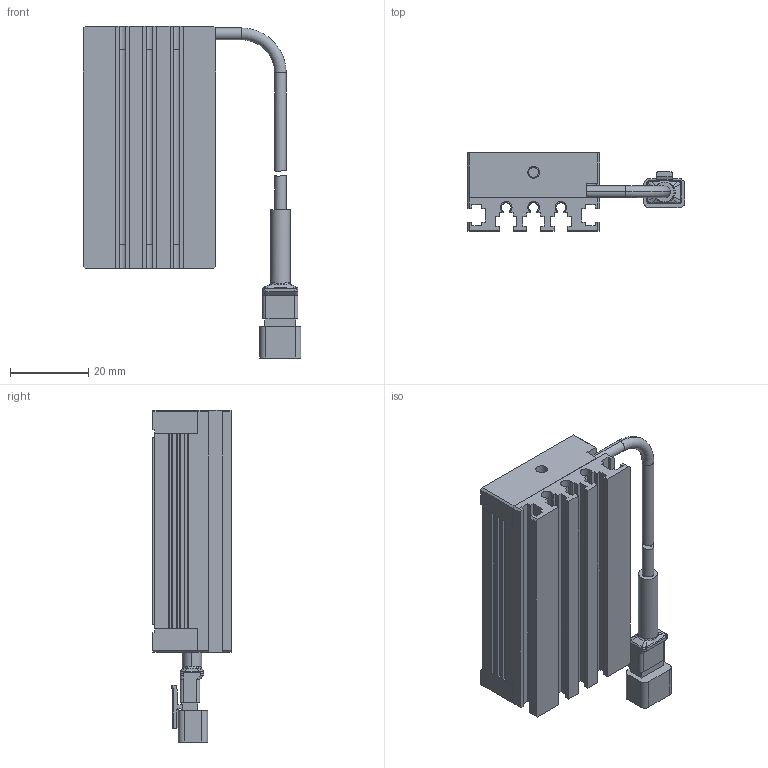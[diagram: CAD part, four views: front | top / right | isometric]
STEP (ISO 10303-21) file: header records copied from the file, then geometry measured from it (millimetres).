
FILE_DESCRIPTION (( 'STEP AP203' ), '1' );
FILE_NAME ('26x30_LDL2-50X30GR2.STEP', '2024-09-30T06:20:44', ( 'CCS' ), ( 'シーシーエス株式会社' ), 'SwSTEP 2.0', 'SolidWorks 2022', '' );
FILE_SCHEMA (( 'CONFIG_CONTROL_DESIGN' ));
Length unit declared in the file: millimetre
Products named in the file (7): ブロック30A_LDL2-50X30GR2; レンズ30_LDL2-50X30GR2; ブロック30B_LDL2-50X30GR2; 26x30_LDL2-50X30GR2; BSCA002-N007_M2x12_CAP(三価ｸﾛﾑ黒色); SMケーブル_パターン2; フレーム30_LDL2-50X30GR2
Assembly tree (9 placements, depth 2):
  26x30_LDL2-50X30GR2
    フレーム30_LDL2-50X30GR2
    レンズ30_LDL2-50X30GR2
    ブロック30B_LDL2-50X30GR2
    ブロック30A_LDL2-50X30GR2
    BSCA002-N007_M2x12_CAP(三価ｸﾛﾑ黒色)  x4
    SMケーブル_パターン2
Bounding box: 55.75 x 20 x 85 mm (x, y, z)
Volume: 33803.2 mm3; surface area: 22325.1 mm2
Topology: 10 solids, 10 shells, 481 faces, 1243 edges, 785 vertices
Faces by surface type: plane 288, cylinder 107, bspline 44, cone 24, torus 18
Entity records: 14886 total; most frequent: CARTESIAN_POINT 4295, ORIENTED_EDGE 2118, DIRECTION 1903, EDGE_CURVE 1059, LINE 761, VECTOR 761, VERTEX_POINT 686, AXIS2_PLACEMENT_3D 571
